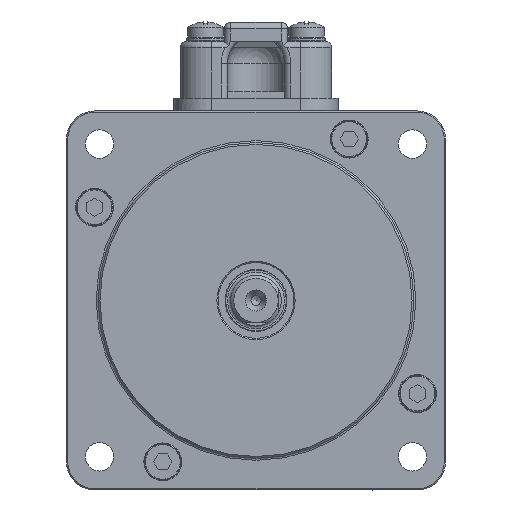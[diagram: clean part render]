
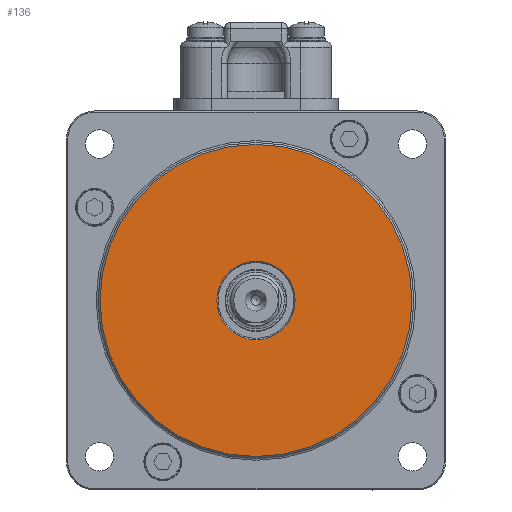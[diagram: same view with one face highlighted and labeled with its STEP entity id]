
A CAD part, front view. The second image highlights one B-rep face of the part: STEP entity #136.
In plain terms, the highlighted planar face has unit normal (0, -1, 0).
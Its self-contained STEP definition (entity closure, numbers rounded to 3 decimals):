
#136=ADVANCED_FACE('',(#1682,#1683),#1684,.T.);
#1682=FACE_BOUND('',#4877,.T.);
#1683=FACE_OUTER_BOUND('',#4878,.T.);
#1684=PLANE('',#4879);
#4877=EDGE_LOOP('',(#10072));
#4878=EDGE_LOOP('',(#10073));
#4879=AXIS2_PLACEMENT_3D('',#10074,#10075,#10076);
#10072=ORIENTED_EDGE('',*,*,#21438,.T.);
#10073=ORIENTED_EDGE('',*,*,#21439,.T.);
#10074=CARTESIAN_POINT('',(-25.,-10.5,0.));
#10075=DIRECTION('',(0.,-1.0,0.));
#10076=DIRECTION('',(0.0,0.,-1.0));
#21438=EDGE_CURVE('',#25124,#25124,#25125,.T.);
#21439=EDGE_CURVE('',#25126,#25126,#25127,.T.);
#25124=VERTEX_POINT('',#30786);
#25125=CIRCLE('',#30787,6.2);
#25126=VERTEX_POINT('',#30788);
#25127=CIRCLE('',#30789,24.7);
#30786=CARTESIAN_POINT('',(-6.2,-10.5,0.));
#30787=AXIS2_PLACEMENT_3D('',#40470,#40471,#40472);
#30788=CARTESIAN_POINT('',(-24.7,-10.5,0.));
#30789=AXIS2_PLACEMENT_3D('',#40473,#40474,#40475);
#40470=CARTESIAN_POINT('',(0.,-10.5,0.));
#40471=DIRECTION('',(0.,1.0,0.));
#40472=DIRECTION('',(-1.0,0.,0.));
#40473=CARTESIAN_POINT('',(0.,-10.5,0.));
#40474=DIRECTION('',(0.,-1.0,0.));
#40475=DIRECTION('',(-1.0,0.,0.));
